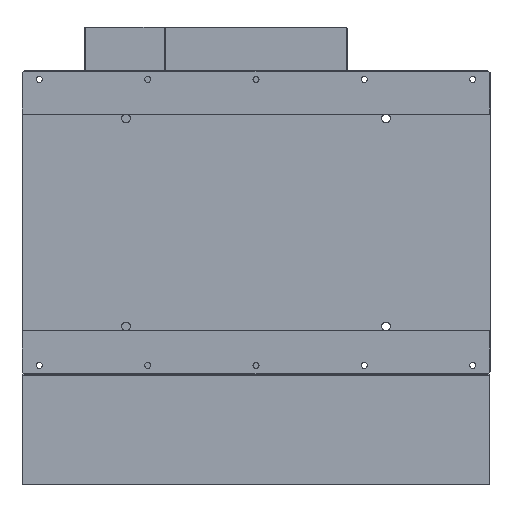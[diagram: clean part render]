
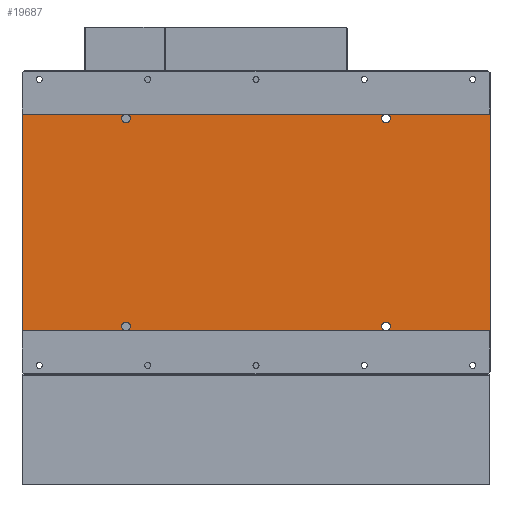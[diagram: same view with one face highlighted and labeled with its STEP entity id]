
A CAD part, front view. The second image highlights one B-rep face of the part: STEP entity #19687.
In plain terms, the highlighted planar face has unit normal (0, -1, 0).
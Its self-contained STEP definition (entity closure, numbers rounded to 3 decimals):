
#300 = VERTEX_POINT ( 'NONE', #10056 ) ;
#506 = EDGE_CURVE ( 'NONE', #300, #35366, #89077, .T. ) ;
#1261 = LINE ( 'NONE', #52438, #51672 ) ;
#3564 = VERTEX_POINT ( 'NONE', #18530 ) ;
#4022 = LINE ( 'NONE', #14170, #77868 ) ;
#4235 = DIRECTION ( 'NONE',  ( 0., 0., 1. ) ) ;
#5725 = VECTOR ( 'NONE', #7684, 1000. ) ;
#6462 = CARTESIAN_POINT ( 'NONE',  ( -540., 1., 250. ) ) ;
#6510 = DIRECTION ( 'NONE',  ( 0., 0., 1. ) ) ;
#6655 = DIRECTION ( 'NONE',  ( 0., 1., 0. ) ) ;
#7684 = DIRECTION ( 'NONE',  ( 1., 0., 0. ) ) ;
#7824 = ORIENTED_EDGE ( 'NONE', *, *, #91523, .T. ) ;
#7936 = VERTEX_POINT ( 'NONE', #23006 ) ;
#8004 = LINE ( 'NONE', #49554, #5725 ) ;
#8153 = ORIENTED_EDGE ( 'NONE', *, *, #57007, .T. ) ;
#9574 = DIRECTION ( 'NONE',  ( 0., 0., 1. ) ) ;
#9605 = ORIENTED_EDGE ( 'NONE', *, *, #506, .F. ) ;
#9777 = LINE ( 'NONE', #60544, #81343 ) ;
#10056 = CARTESIAN_POINT ( 'NONE',  ( 300., 1., 250. ) ) ;
#10505 = ORIENTED_EDGE ( 'NONE', *, *, #48422, .F. ) ;
#11156 = EDGE_CURVE ( 'NONE', #86871, #35366, #51825, .T. ) ;
#11238 = AXIS2_PLACEMENT_3D ( 'NONE', #56859, #49974, #6510 ) ;
#11434 = DIRECTION ( 'NONE',  ( 1., 0., 0. ) ) ;
#11441 = ORIENTED_EDGE ( 'NONE', *, *, #88542, .T. ) ;
#11635 = CARTESIAN_POINT ( 'NONE',  ( -300., 1., 250. ) ) ;
#14170 = CARTESIAN_POINT ( 'NONE',  ( -540., 1., -250. ) ) ;
#14218 = VERTEX_POINT ( 'NONE', #17720 ) ;
#15681 = EDGE_CURVE ( 'NONE', #3564, #18353, #76357, .T. ) ;
#16205 = CARTESIAN_POINT ( 'NONE',  ( 300., 1., -230. ) ) ;
#16248 = DIRECTION ( 'NONE',  ( 1., 0., 0. ) ) ;
#17695 = EDGE_CURVE ( 'NONE', #45989, #78827, #28570, .T. ) ;
#17720 = CARTESIAN_POINT ( 'NONE',  ( -540., 1., -250. ) ) ;
#18240 = VECTOR ( 'NONE', #82029, 1000. ) ;
#18324 = CARTESIAN_POINT ( 'NONE',  ( -300., 1., -240. ) ) ;
#18353 = VERTEX_POINT ( 'NONE', #11635 ) ;
#18530 = CARTESIAN_POINT ( 'NONE',  ( -540., 1., 250. ) ) ;
#19687 = ADVANCED_FACE ( 'NONE', ( #86343 ), #75761, .F. ) ;
#20143 = CARTESIAN_POINT ( 'NONE',  ( 300., 1., -240. ) ) ;
#20741 = CARTESIAN_POINT ( 'NONE',  ( -300., 1., 240. ) ) ;
#20851 = EDGE_CURVE ( 'NONE', #68640, #59872, #63936, .T. ) ;
#20921 = EDGE_LOOP ( 'NONE', ( #7824, #77522, #53187, #33311, #62819, #9605, #11441, #36878, #10505, #75309, #32399, #71629, #70935, #60832, #8153, #88651 ) ) ;
#21233 = DIRECTION ( 'NONE',  ( 0., 0., 1. ) ) ;
#21303 = CARTESIAN_POINT ( 'NONE',  ( -540., 1., 250. ) ) ;
#23006 = CARTESIAN_POINT ( 'NONE',  ( -300., 1., 230. ) ) ;
#23087 = AXIS2_PLACEMENT_3D ( 'NONE', #32748, #54833, #33066 ) ;
#24824 = CIRCLE ( 'NONE', #25948, 10. ) ;
#25190 = CARTESIAN_POINT ( 'NONE',  ( 540., 1., 250. ) ) ;
#25623 = CIRCLE ( 'NONE', #44621, 10. ) ;
#25948 = AXIS2_PLACEMENT_3D ( 'NONE', #50693, #30425, #87326 ) ;
#26070 = CIRCLE ( 'NONE', #51990, 10. ) ;
#28570 = CIRCLE ( 'NONE', #76576, 10. ) ;
#28859 = AXIS2_PLACEMENT_3D ( 'NONE', #20741, #6655, #70694 ) ;
#29952 = CARTESIAN_POINT ( 'NONE',  ( 540., 1., -250. ) ) ;
#30425 = DIRECTION ( 'NONE',  ( 0., 1., 0. ) ) ;
#32076 = LINE ( 'NONE', #49291, #58794 ) ;
#32399 = ORIENTED_EDGE ( 'NONE', *, *, #76029, .T. ) ;
#32748 = CARTESIAN_POINT ( 'NONE',  ( -540., 1., 250. ) ) ;
#33066 = DIRECTION ( 'NONE',  ( 0., 0., 1. ) ) ;
#33311 = ORIENTED_EDGE ( 'NONE', *, *, #85250, .T. ) ;
#33444 = DIRECTION ( 'NONE',  ( 0., 1., 0. ) ) ;
#35366 = VERTEX_POINT ( 'NONE', #90367 ) ;
#36878 = ORIENTED_EDGE ( 'NONE', *, *, #64350, .T. ) ;
#37882 = DIRECTION ( 'NONE',  ( 1., 0., 0. ) ) ;
#42699 = EDGE_CURVE ( 'NONE', #14218, #3564, #32076, .T. ) ;
#43081 = CARTESIAN_POINT ( 'NONE',  ( 300., 1., 240. ) ) ;
#43424 = DIRECTION ( 'NONE',  ( 0., 0., 1. ) ) ;
#44621 = AXIS2_PLACEMENT_3D ( 'NONE', #43081, #86512, #43424 ) ;
#45471 = VECTOR ( 'NONE', #16248, 1000. ) ;
#45989 = VERTEX_POINT ( 'NONE', #73980 ) ;
#46212 = CARTESIAN_POINT ( 'NONE',  ( -300., 1., -250. ) ) ;
#46630 = EDGE_CURVE ( 'NONE', #59872, #68640, #69463, .T. ) ;
#48422 = EDGE_CURVE ( 'NONE', #18353, #300, #9777, .T. ) ;
#49291 = CARTESIAN_POINT ( 'NONE',  ( -540., 1., 250. ) ) ;
#49554 = CARTESIAN_POINT ( 'NONE',  ( -540., 1., -250. ) ) ;
#49974 = DIRECTION ( 'NONE',  ( 0., 1., 0. ) ) ;
#50693 = CARTESIAN_POINT ( 'NONE',  ( 300., 1., 240. ) ) ;
#51672 = VECTOR ( 'NONE', #37882, 1000. ) ;
#51825 = LINE ( 'NONE', #25190, #18240 ) ;
#51990 = AXIS2_PLACEMENT_3D ( 'NONE', #84415, #64007, #21233 ) ;
#52438 = CARTESIAN_POINT ( 'NONE',  ( -540., 1., -250. ) ) ;
#53187 = ORIENTED_EDGE ( 'NONE', *, *, #20851, .T. ) ;
#53413 = EDGE_CURVE ( 'NONE', #14218, #78827, #1261, .T. ) ;
#54251 = CIRCLE ( 'NONE', #60845, 10. ) ;
#54833 = DIRECTION ( 'NONE',  ( 0., 1., 0. ) ) ;
#55942 = CARTESIAN_POINT ( 'NONE',  ( 300., 1., 230. ) ) ;
#56859 = CARTESIAN_POINT ( 'NONE',  ( 300., 1., -240. ) ) ;
#57007 = EDGE_CURVE ( 'NONE', #78827, #45989, #54251, .T. ) ;
#58794 = VECTOR ( 'NONE', #86571, 1000. ) ;
#59872 = VERTEX_POINT ( 'NONE', #81936 ) ;
#59931 = CARTESIAN_POINT ( 'NONE',  ( -300., 1., -240. ) ) ;
#60544 = CARTESIAN_POINT ( 'NONE',  ( -540., 1., 250. ) ) ;
#60832 = ORIENTED_EDGE ( 'NONE', *, *, #53413, .T. ) ;
#60845 = AXIS2_PLACEMENT_3D ( 'NONE', #18324, #33444, #4235 ) ;
#62819 = ORIENTED_EDGE ( 'NONE', *, *, #11156, .T. ) ;
#63936 = CIRCLE ( 'NONE', #11238, 10. ) ;
#64007 = DIRECTION ( 'NONE',  ( 0., 1., 0. ) ) ;
#64350 = EDGE_CURVE ( 'NONE', #92403, #300, #24824, .T. ) ;
#67087 = DIRECTION ( 'NONE',  ( 0., 1., 0. ) ) ;
#68640 = VERTEX_POINT ( 'NONE', #16205 ) ;
#69463 = CIRCLE ( 'NONE', #82096, 10. ) ;
#70694 = DIRECTION ( 'NONE',  ( 0., 0., 1. ) ) ;
#70699 = DIRECTION ( 'NONE',  ( 1., 0., 0. ) ) ;
#70935 = ORIENTED_EDGE ( 'NONE', *, *, #42699, .F. ) ;
#71629 = ORIENTED_EDGE ( 'NONE', *, *, #15681, .F. ) ;
#73980 = CARTESIAN_POINT ( 'NONE',  ( -300., 1., -230. ) ) ;
#74919 = CIRCLE ( 'NONE', #28859, 10. ) ;
#75309 = ORIENTED_EDGE ( 'NONE', *, *, #87320, .T. ) ;
#75761 = PLANE ( 'NONE',  #23087 ) ;
#76029 = EDGE_CURVE ( 'NONE', #7936, #18353, #26070, .T. ) ;
#76357 = LINE ( 'NONE', #6462, #88805 ) ;
#76576 = AXIS2_PLACEMENT_3D ( 'NONE', #59931, #67087, #9574 ) ;
#77356 = DIRECTION ( 'NONE',  ( 1., 0., 0. ) ) ;
#77522 = ORIENTED_EDGE ( 'NONE', *, *, #46630, .T. ) ;
#77868 = VECTOR ( 'NONE', #70699, 1000. ) ;
#78827 = VERTEX_POINT ( 'NONE', #46212 ) ;
#81343 = VECTOR ( 'NONE', #11434, 1000. ) ;
#81936 = CARTESIAN_POINT ( 'NONE',  ( 300., 1., -250. ) ) ;
#82029 = DIRECTION ( 'NONE',  ( 0., 0., 1. ) ) ;
#82096 = AXIS2_PLACEMENT_3D ( 'NONE', #20143, #91516, #91805 ) ;
#84415 = CARTESIAN_POINT ( 'NONE',  ( -300., 1., 240. ) ) ;
#85250 = EDGE_CURVE ( 'NONE', #59872, #86871, #8004, .T. ) ;
#86343 = FACE_OUTER_BOUND ( 'NONE', #20921, .T. ) ;
#86512 = DIRECTION ( 'NONE',  ( 0., 1., 0. ) ) ;
#86571 = DIRECTION ( 'NONE',  ( 0., 0., 1. ) ) ;
#86871 = VERTEX_POINT ( 'NONE', #29952 ) ;
#87320 = EDGE_CURVE ( 'NONE', #18353, #7936, #74919, .T. ) ;
#87326 = DIRECTION ( 'NONE',  ( 0., 0., 1. ) ) ;
#88542 = EDGE_CURVE ( 'NONE', #300, #92403, #25623, .T. ) ;
#88651 = ORIENTED_EDGE ( 'NONE', *, *, #17695, .T. ) ;
#88805 = VECTOR ( 'NONE', #77356, 1000. ) ;
#89077 = LINE ( 'NONE', #21303, #45471 ) ;
#90367 = CARTESIAN_POINT ( 'NONE',  ( 540., 1., 250. ) ) ;
#91516 = DIRECTION ( 'NONE',  ( 0., 1., 0. ) ) ;
#91523 = EDGE_CURVE ( 'NONE', #78827, #59872, #4022, .T. ) ;
#91805 = DIRECTION ( 'NONE',  ( 0., 0., 1. ) ) ;
#92403 = VERTEX_POINT ( 'NONE', #55942 ) ;
